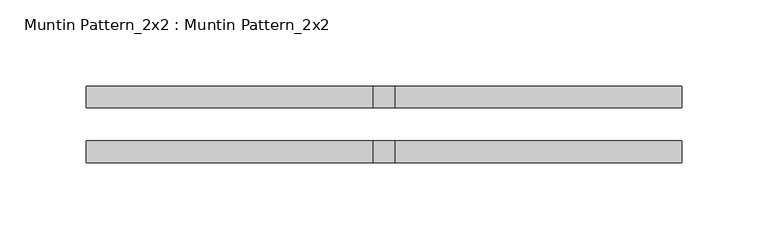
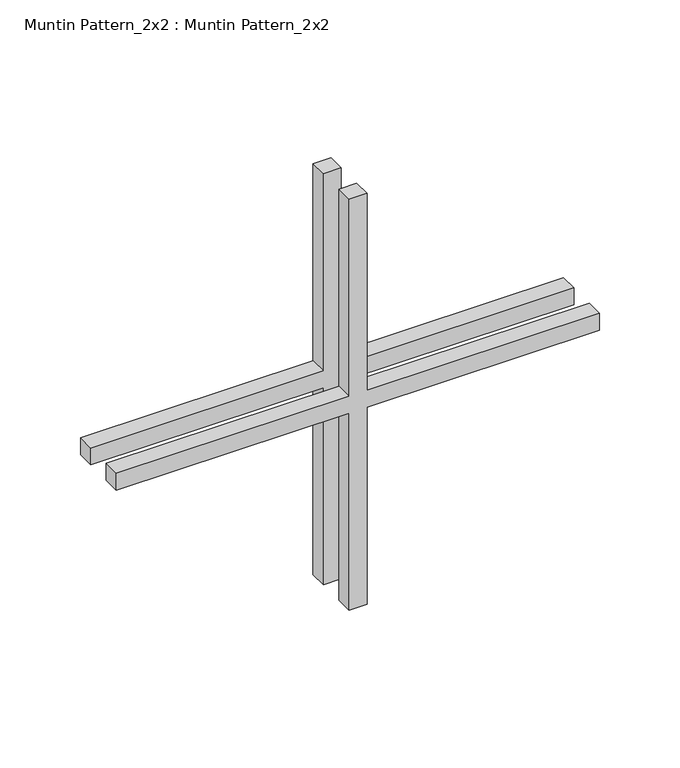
"""IFC4 building model written with IfcOpenShell, lengths in millimetres: proxy geometry, Muntin Pattern_2x2 : Muntin Pattern_2x2."""

from ifc_helpers import new_model, si_unit, frame, origin, place, context, project, spatial, polyline, outline, extrude, source, transform, mapped, element, save


def muntin_pattern_2x2_muntin_pattern_2x2_335b0541(model_context):
    return source(origin(), model_context, "Body", "SweptSolid", [
        extrude(outline(polyline([(161.925, -6.35), (161.925, -173.0375), (149.225, -173.0375), (149.225, -6.35), (0.0, -6.35), (0.0, 6.35), (149.225, 6.35), (149.225, 173.0375), (161.925, 173.0375), (161.925, 6.35), (311.15, 6.35), (311.15, -6.35), (161.925, -6.35)])), frame((0.0, 9.525, 0.0), z_axis=(0.0, 1.0, 0.0), x_axis=(0.0, 0.0, 1.0)), (0.0, 0.0, 1.0), 12.7),
        extrude(outline(polyline([(161.925, -6.35), (161.925, -173.0375), (149.225, -173.0375), (149.225, -6.35), (0.0, -6.35), (0.0, 6.35), (149.225, 6.35), (149.225, 173.0375), (161.925, 173.0375), (161.925, 6.35), (311.15, 6.35), (311.15, -6.35), (161.925, -6.35)])), frame((0.0, -22.225, 0.0), z_axis=(0.0, 1.0, 0.0), x_axis=(0.0, 0.0, 1.0)), (0.0, 0.0, 1.0), 12.7),
    ])


if __name__ == "__main__":
    model = new_model("IFC4")
    model_context = context("Model", 3, world=origin())
    ifc_project = project(units=[si_unit("LENGTHUNIT", "METRE", prefix="MILLI")], contexts=[model_context])
    site = spatial("IfcSite", under=ifc_project)
    building = spatial("IfcBuilding", under=site)
    placement = place(None, origin())
    muntin_pattern_2x2_muntin_pattern_2x2_shape = muntin_pattern_2x2_muntin_pattern_2x2_335b0541(model_context)
    element("IfcBuildingElementProxy", 1, Name="Muntin Pattern_2x2 : Muntin Pattern_2x2", ObjectType="Muntin Pattern_2x2 : Muntin Pattern_2x2", at=placement, inside=building, context=model_context, shape_type="MappedRepresentation", body=[
        mapped(muntin_pattern_2x2_muntin_pattern_2x2_shape, transform((0.0, 0.0, 0.0), x_axis=(1.0, 0.0, 0.0), y_axis=(0.0, 1.0, 0.0), z_axis=(0.0, 0.0, 1.0))),
    ])
    save(model, "model.ifc")
